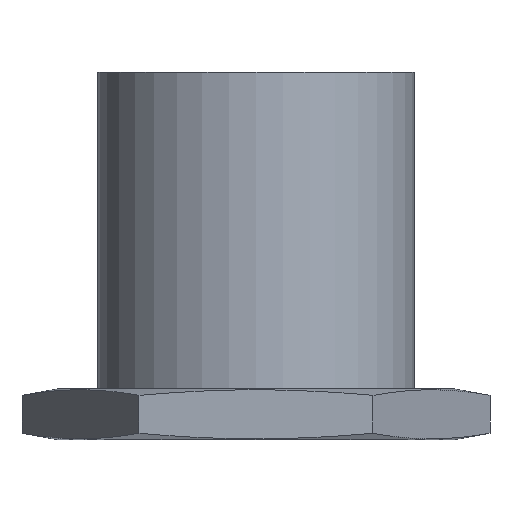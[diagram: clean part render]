
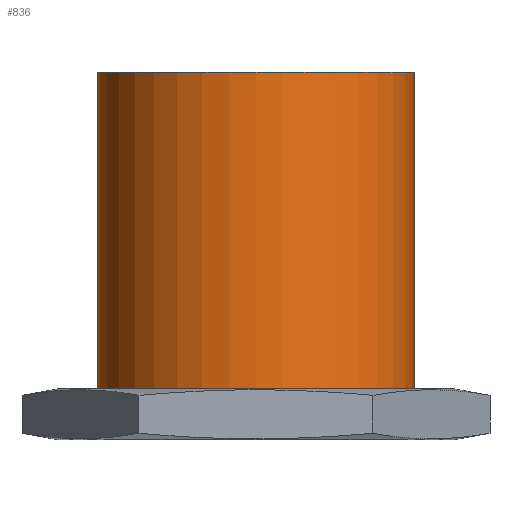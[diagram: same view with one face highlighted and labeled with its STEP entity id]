
A CAD part, front view. The second image highlights one B-rep face of the part: STEP entity #836.
In plain terms, the highlighted cylindrical face has radius 12.5 mm (diameter 25 mm), a partial arc.
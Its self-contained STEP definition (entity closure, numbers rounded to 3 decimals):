
#198 = EDGE_CURVE ( 'NONE', #398, #1348, #1048, .T. ) ;
#218 = VERTEX_POINT ( 'NONE', #1474 ) ;
#259 = EDGE_CURVE ( 'NONE', #1366, #398, #685, .T. ) ;
#316 = CARTESIAN_POINT ( 'NONE',  ( 0., 0., 29. ) ) ;
#354 = CARTESIAN_POINT ( 'NONE',  ( 12.5, 0., 4. ) ) ;
#366 = LINE ( 'NONE', #1207, #1761 ) ;
#398 = VERTEX_POINT ( 'NONE', #1976 ) ;
#403 = VECTOR ( 'NONE', #636, 1000. ) ;
#545 = ORIENTED_EDGE ( 'NONE', *, *, #259, .T. ) ;
#567 = AXIS2_PLACEMENT_3D ( 'NONE', #1392, #1208, #2036 ) ;
#636 = DIRECTION ( 'NONE',  ( 0., 0., -1. ) ) ;
#666 = DIRECTION ( 'NONE',  ( 1., 0., 0. ) ) ;
#676 = CARTESIAN_POINT ( 'NONE',  ( 0., 0., 4. ) ) ;
#685 = LINE ( 'NONE', #1882, #403 ) ;
#763 = CYLINDRICAL_SURFACE ( 'NONE', #567, 12.5 ) ;
#812 = AXIS2_PLACEMENT_3D ( 'NONE', #316, #1002, #666 ) ;
#836 = ADVANCED_FACE ( 'NONE', ( #1873 ), #763, .T. ) ;
#899 = EDGE_LOOP ( 'NONE', ( #1041, #1944, #545, #1630 ) ) ;
#967 = CARTESIAN_POINT ( 'NONE',  ( -12.5, 0., 29. ) ) ;
#970 = DIRECTION ( 'NONE',  ( 0., 0., 1. ) ) ;
#1002 = DIRECTION ( 'NONE',  ( 0., 0., 1. ) ) ;
#1041 = ORIENTED_EDGE ( 'NONE', *, *, #1852, .F. ) ;
#1048 = CIRCLE ( 'NONE', #1345, 12.5 ) ;
#1207 = CARTESIAN_POINT ( 'NONE',  ( 12.5, 0., 29. ) ) ;
#1208 = DIRECTION ( 'NONE',  ( 0., 0., -1. ) ) ;
#1339 = CIRCLE ( 'NONE', #812, 12.5 ) ;
#1345 = AXIS2_PLACEMENT_3D ( 'NONE', #676, #970, #1759 ) ;
#1348 = VERTEX_POINT ( 'NONE', #354 ) ;
#1366 = VERTEX_POINT ( 'NONE', #967 ) ;
#1392 = CARTESIAN_POINT ( 'NONE',  ( 0., 0., 29. ) ) ;
#1452 = EDGE_CURVE ( 'NONE', #1366, #218, #1339, .T. ) ;
#1474 = CARTESIAN_POINT ( 'NONE',  ( 12.5, 0., 29. ) ) ;
#1527 = DIRECTION ( 'NONE',  ( 0., 0., -1. ) ) ;
#1630 = ORIENTED_EDGE ( 'NONE', *, *, #198, .T. ) ;
#1759 = DIRECTION ( 'NONE',  ( 1., 0., 0. ) ) ;
#1761 = VECTOR ( 'NONE', #1527, 1000. ) ;
#1852 = EDGE_CURVE ( 'NONE', #218, #1348, #366, .T. ) ;
#1873 = FACE_OUTER_BOUND ( 'NONE', #899, .T. ) ;
#1882 = CARTESIAN_POINT ( 'NONE',  ( -12.5, 0., 29. ) ) ;
#1944 = ORIENTED_EDGE ( 'NONE', *, *, #1452, .F. ) ;
#1976 = CARTESIAN_POINT ( 'NONE',  ( -12.5, 0., 4. ) ) ;
#2036 = DIRECTION ( 'NONE',  ( -1., 0., 0. ) ) ;
